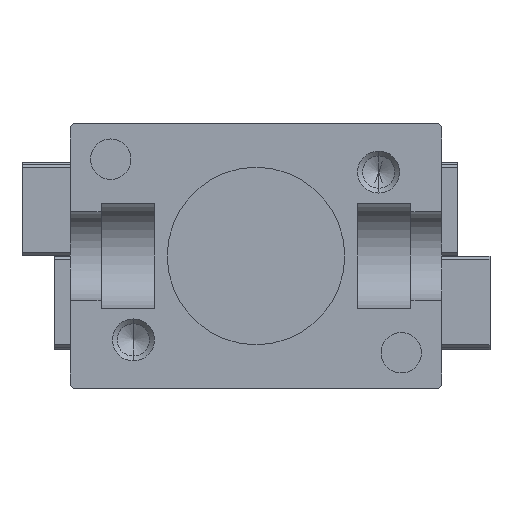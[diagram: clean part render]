
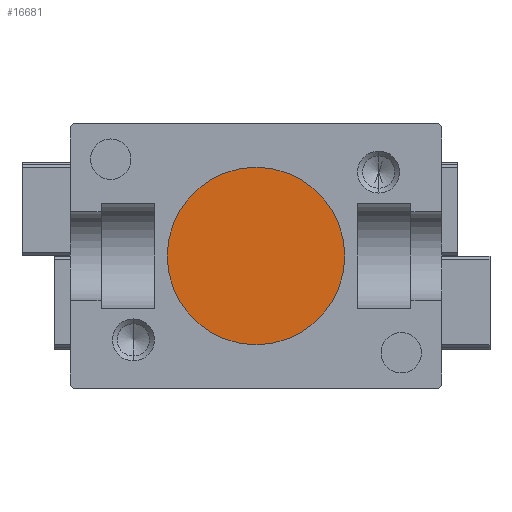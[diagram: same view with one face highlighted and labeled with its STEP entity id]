
A CAD part, front view. The second image highlights one B-rep face of the part: STEP entity #16681.
In plain terms, the highlighted planar face has unit normal (0, -1, 0).
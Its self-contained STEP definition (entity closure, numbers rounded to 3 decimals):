
#3596 = CARTESIAN_POINT ( 'NONE',  ( 0., 2., 0. ) ) ;
#6953 = CIRCLE ( 'NONE', #32014, 5.5 ) ;
#10644 = CIRCLE ( 'NONE', #20412, 5.5 ) ;
#10812 = DIRECTION ( 'NONE',  ( 0., -1., 0. ) ) ;
#11377 = ORIENTED_EDGE ( 'NONE', *, *, #37934, .T. ) ;
#13990 = CARTESIAN_POINT ( 'NONE',  ( -5.5, 2., 0. ) ) ;
#14569 = DIRECTION ( 'NONE',  ( 0., -1., 0. ) ) ;
#16681 = ADVANCED_FACE ( 'NONE', ( #44063 ), #17110, .T. ) ;
#17110 = PLANE ( 'NONE',  #29082 ) ;
#20299 = CARTESIAN_POINT ( 'NONE',  ( 5.5, 2., 0. ) ) ;
#20342 = DIRECTION ( 'NONE',  ( 0., -1., 0. ) ) ;
#20412 = AXIS2_PLACEMENT_3D ( 'NONE', #36120, #14569, #39710 ) ;
#22258 = EDGE_CURVE ( 'NONE', #39018, #32518, #10644, .T. ) ;
#29082 = AXIS2_PLACEMENT_3D ( 'NONE', #3596, #10812, #35982 ) ;
#30875 = EDGE_LOOP ( 'NONE', ( #11377, #46194 ) ) ;
#32014 = AXIS2_PLACEMENT_3D ( 'NONE', #41857, #20342, #45478 ) ;
#32518 = VERTEX_POINT ( 'NONE', #20299 ) ;
#35982 = DIRECTION ( 'NONE',  ( 1., 0., 0. ) ) ;
#36120 = CARTESIAN_POINT ( 'NONE',  ( 0., 2., 0. ) ) ;
#37934 = EDGE_CURVE ( 'NONE', #32518, #39018, #6953, .T. ) ;
#39018 = VERTEX_POINT ( 'NONE', #13990 ) ;
#39710 = DIRECTION ( 'NONE',  ( 1., 0., 0. ) ) ;
#41857 = CARTESIAN_POINT ( 'NONE',  ( 0., 2., 0. ) ) ;
#44063 = FACE_OUTER_BOUND ( 'NONE', #30875, .T. ) ;
#45478 = DIRECTION ( 'NONE',  ( 1., 0., 0. ) ) ;
#46194 = ORIENTED_EDGE ( 'NONE', *, *, #22258, .T. ) ;
